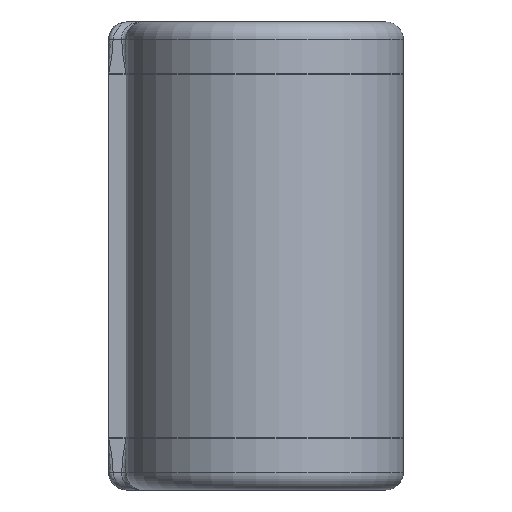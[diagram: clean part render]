
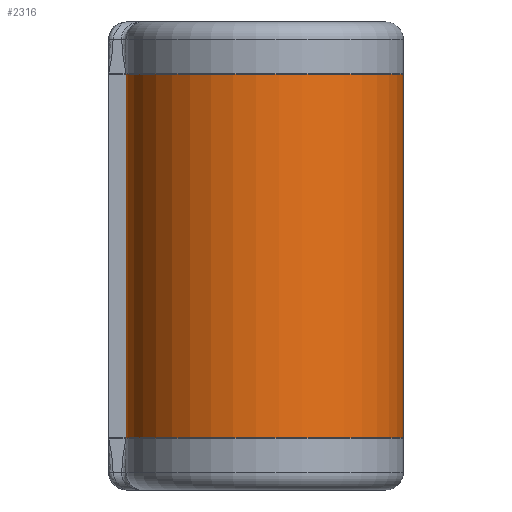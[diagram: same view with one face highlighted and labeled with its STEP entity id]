
A CAD part, left-side view. The second image highlights one B-rep face of the part: STEP entity #2316.
In plain terms, the highlighted cylindrical face has radius 8 mm (diameter 16 mm), a partial arc.
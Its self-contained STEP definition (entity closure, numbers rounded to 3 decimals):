
#202 = AXIS2_PLACEMENT_3D ( 'NONE', #6369, #1229, #2906 ) ;
#1229 = DIRECTION ( 'NONE',  ( 0., 0., 1. ) ) ;
#1495 = DIRECTION ( 'NONE',  ( 1., 0., 0. ) ) ;
#1730 = DIRECTION ( 'NONE',  ( 0., 0., 1. ) ) ;
#1786 = EDGE_CURVE ( 'NONE', #7540, #3831, #2317, .T. ) ;
#2256 = CARTESIAN_POINT ( 'NONE',  ( 0., 8., 10.5 ) ) ;
#2316 = ADVANCED_FACE ( 'NONE', ( #2836 ), #8515, .T. ) ;
#2317 = LINE ( 'NONE', #3428, #2969 ) ;
#2318 = ORIENTED_EDGE ( 'NONE', *, *, #5751, .T. ) ;
#2531 = DIRECTION ( 'NONE',  ( 1., 0., 0. ) ) ;
#2556 = CARTESIAN_POINT ( 'NONE',  ( 4.124, -6.855, 10.5 ) ) ;
#2836 = FACE_OUTER_BOUND ( 'NONE', #6017, .T. ) ;
#2906 = DIRECTION ( 'NONE',  ( 1., 0., 0. ) ) ;
#2969 = VECTOR ( 'NONE', #1730, 1000. ) ;
#3358 = VERTEX_POINT ( 'NONE', #3730 ) ;
#3428 = CARTESIAN_POINT ( 'NONE',  ( 0., 8., -10.5 ) ) ;
#3730 = CARTESIAN_POINT ( 'NONE',  ( 4.124, -6.855, -10.5 ) ) ;
#3743 = AXIS2_PLACEMENT_3D ( 'NONE', #8537, #9462, #2531 ) ;
#3831 = VERTEX_POINT ( 'NONE', #2256 ) ;
#4114 = AXIS2_PLACEMENT_3D ( 'NONE', #7303, #7397, #1495 ) ;
#4178 = CARTESIAN_POINT ( 'NONE',  ( 0., 8., -10.5 ) ) ;
#4237 = EDGE_CURVE ( 'NONE', #3358, #9180, #7702, .T. ) ;
#5283 = CARTESIAN_POINT ( 'NONE',  ( 4.124, -6.855, -10.5 ) ) ;
#5751 = EDGE_CURVE ( 'NONE', #7540, #3358, #8349, .T. ) ;
#6017 = EDGE_LOOP ( 'NONE', ( #9993, #6417, #2318, #7522 ) ) ;
#6369 = CARTESIAN_POINT ( 'NONE',  ( 0., 0., -10.5 ) ) ;
#6417 = ORIENTED_EDGE ( 'NONE', *, *, #1786, .F. ) ;
#7303 = CARTESIAN_POINT ( 'NONE',  ( 0., 0., 10.5 ) ) ;
#7397 = DIRECTION ( 'NONE',  ( 0., 0., 1. ) ) ;
#7522 = ORIENTED_EDGE ( 'NONE', *, *, #4237, .T. ) ;
#7540 = VERTEX_POINT ( 'NONE', #4178 ) ;
#7702 = LINE ( 'NONE', #5283, #9555 ) ;
#7830 = DIRECTION ( 'NONE',  ( 0., 0., 1. ) ) ;
#7926 = CIRCLE ( 'NONE', #4114, 8. ) ;
#8349 = CIRCLE ( 'NONE', #3743, 8. ) ;
#8390 = EDGE_CURVE ( 'NONE', #3831, #9180, #7926, .T. ) ;
#8515 = CYLINDRICAL_SURFACE ( 'NONE', #202, 8. ) ;
#8537 = CARTESIAN_POINT ( 'NONE',  ( 0., 0., -10.5 ) ) ;
#9180 = VERTEX_POINT ( 'NONE', #2556 ) ;
#9462 = DIRECTION ( 'NONE',  ( 0., 0., 1. ) ) ;
#9555 = VECTOR ( 'NONE', #7830, 1000. ) ;
#9993 = ORIENTED_EDGE ( 'NONE', *, *, #8390, .F. ) ;
